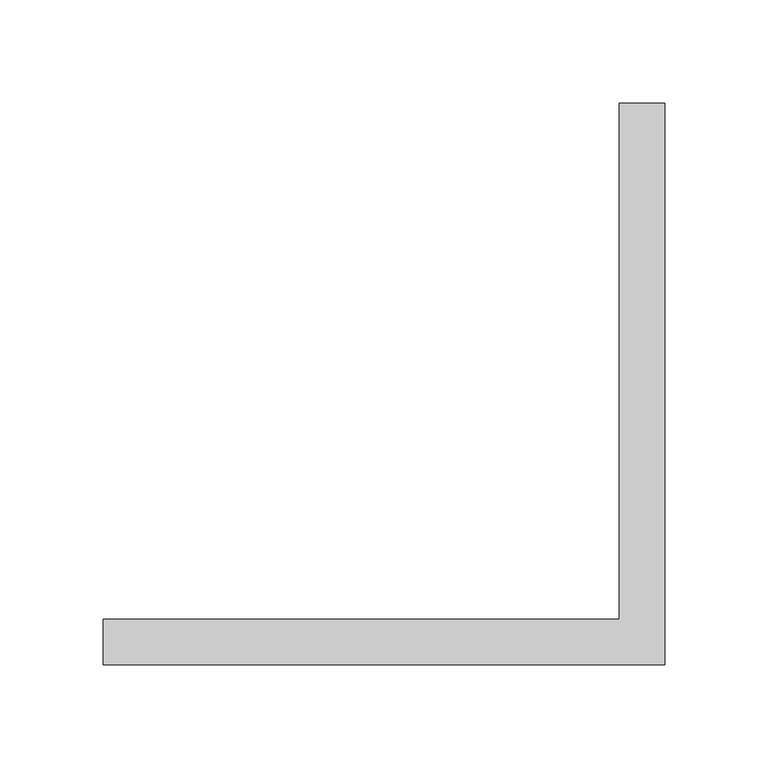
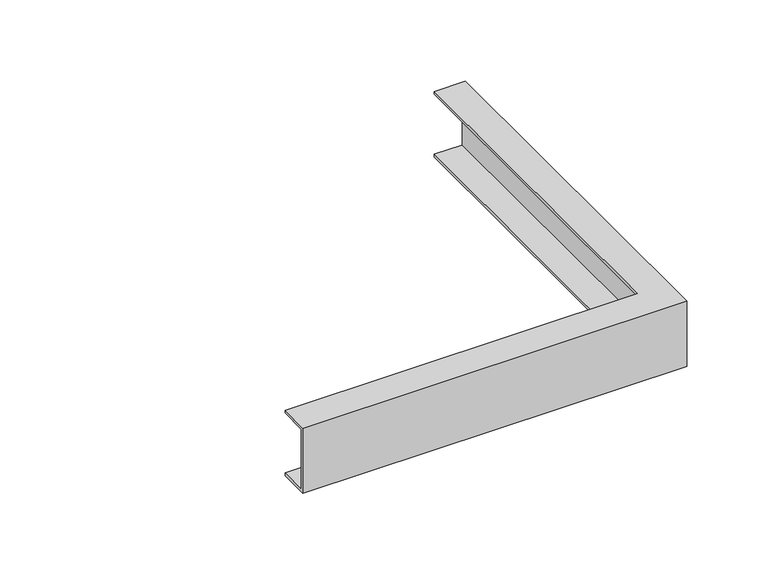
"""IFC4 building model written with IfcOpenShell, lengths in millimetres: cable carrier fitting geometry, BAKS_LD_CONN_Angle connector_LKD : LKDC_H45."""

from ifc_helpers import new_model, si_unit, origin, place, context, project, spatial, faceted_brep, source, transform, mapped, element, save


def cable_carrier_fitting_c279e415(model_context):
    return source(origin(), model_context, "Body", "Brep", [
        faceted_brep([(-20.0, 20.0, 24.5), (-270.0, 20.0, 24.5), (-270.0, -2.0, 24.5), (2.000014, -2.0, 24.5), (1.9981069, 270.000014, 24.5), (-20.0018931, 269.9998598, 24.5), (-270.0, 20.0, 22.5), (-20.0, 20.0, 22.5), (-20.0018931, 269.9998598, 22.5), (-0.0018931, 270.0, 22.5), (0.0, 0.0, 22.5), (-270.0, 0.0, 22.5), (-270.0, 0.0, -22.5), (-270.0, 20.0, -22.5), (-270.0, 20.0, -24.5), (-270.0, -2.0, -24.5), (1.9981069, 270.000014, -24.5), (-20.0018931, 269.9998598, -24.5), (-20.0018931, 269.9998598, -22.5), (-0.0018931, 270.0, -22.5), (2.000014, -2.0, -24.5), (-20.0, 20.0, -24.5), (0.0, 0.0, -22.5), (-20.0, 20.0, -22.5)], [[[0, 1, 2, 3, 4, 5]], [[6, 7, 8, 9, 10, 11]], [[6, 11, 12, 13, 14, 15, 2, 1]], [[1, 0, 7, 6]], [[4, 16, 17, 18, 19, 9, 8, 5]], [[16, 4, 3, 20]], [[17, 16, 20, 15, 14, 21]], [[22, 10, 9, 19]], [[20, 3, 2, 15]], [[11, 10, 22, 12]], [[23, 13, 12, 22, 19, 18]], [[13, 23, 21, 14]], [[0, 5, 8, 7]], [[23, 18, 17, 21]]]),
    ])


if __name__ == "__main__":
    model = new_model("IFC4")
    model_context = context("Model", 3, world=origin())
    ifc_project = project(units=[si_unit("LENGTHUNIT", "METRE", prefix="MILLI")], contexts=[model_context])
    site = spatial("IfcSite", under=ifc_project)
    building = spatial("IfcBuilding", under=site)
    placement = place(None, origin())
    cable_carrier_fitting_shape = cable_carrier_fitting_c279e415(model_context)
    element("IfcCableCarrierFitting", 1, ObjectType="BAKS_LD_CONN_Angle connector_LKD : LKDC_H45", at=placement, inside=building, context=model_context, shape_type="MappedRepresentation", body=[
        mapped(cable_carrier_fitting_shape, transform((0.0, 0.0, 0.0), x_axis=(1.0, 0.0, 0.0), y_axis=(0.0, 1.0, 0.0), z_axis=(0.0, 0.0, 1.0))),
    ])
    save(model, "model.ifc")
